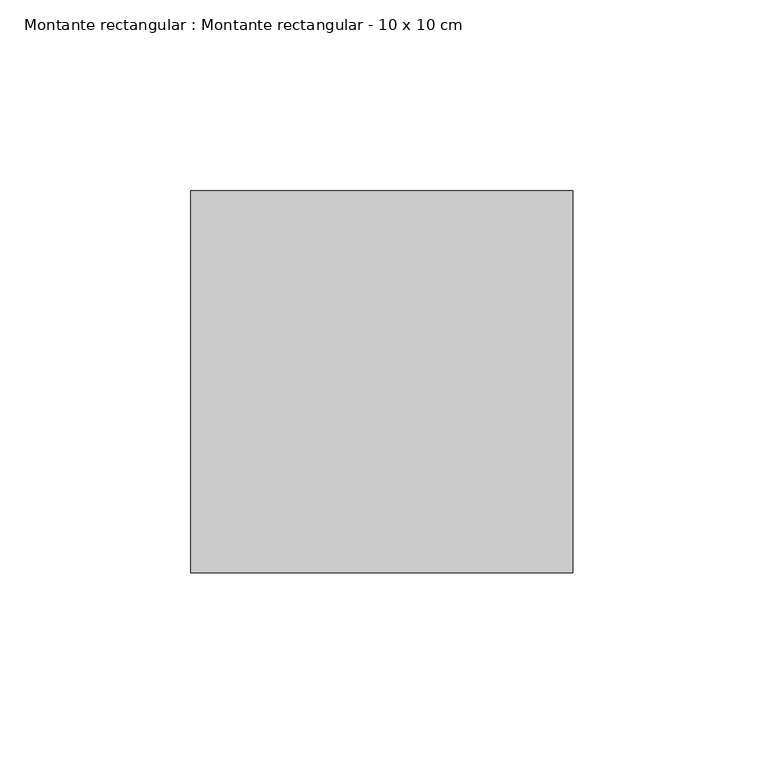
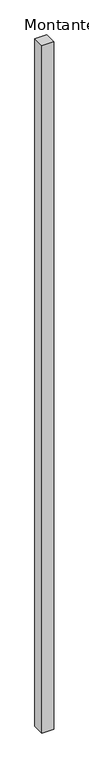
"""IFC4 building model written with IfcOpenShell, lengths in millimetres: member geometry, Montante rectangular : Montante rectangular - 10 x 10 cm."""

import ifcopenshell
import ifcopenshell.guid

model = None  # the IFC model being written
_history = None  # IfcOwnerHistory: only IFC2X3 demands one
_inside = {}  # id of a spatial element -> (the spatial element, [elements in it])
_under = {}  # id of a project, library or spatial element -> (it, [spatial elements below it])
_declared = {}  # id of a project -> (the project, [libraries it declares])
_typed = {}  # id of a type object -> (the type object, [elements of that type])
_made_of = {}  # id of a material, layer set ... -> (it, [elements and type objects made of it])


def new_model(schema):
    """Start an empty IFC model of exactly this schema.

    Asked for "IFC4X3", IfcOpenShell would pick the latest addendum, in which some entities
    have other attributes; the version numbers below select the first issue.
    IFC2X3 requires an IfcOwnerHistory on every rooted entity: one is made here for all.
    """
    global model, _history
    if schema == "IFC4X3":
        model = ifcopenshell.file(schema_version=(4, 3, 0, 0))
    else:
        model = ifcopenshell.file(schema=schema)
    _inside.clear()
    _under.clear()
    _declared.clear()
    _typed.clear()
    _made_of.clear()
    _history = None
    if model.schema == "IFC2X3":
        org = make("IfcOrganization", Name="unknown")
        user = make(
            "IfcPersonAndOrganization",
            ThePerson=make("IfcPerson", FamilyName="unknown"),
            TheOrganization=org,
        )
        app = make(
            "IfcApplication",
            ApplicationDeveloper=org,
            Version="unknown",
            ApplicationFullName="unknown",
            ApplicationIdentifier="unknown",
        )
        _history = make(
            "IfcOwnerHistory",
            OwningUser=user,
            OwningApplication=app,
            ChangeAction="ADDED",
            CreationDate=0,
        )
    return model


def make(cls, **values):
    """One entity of the class cls with the attributes given. An attribute that is None is left unset."""
    return model.create_entity(
        cls, **{name: value for name, value in values.items() if value is not None}
    )


def rooted(cls, **values):
    """An entity with a GlobalId (a new one), such as an element, a storey or a relation."""
    return make(cls, GlobalId=ifcopenshell.guid.new(), OwnerHistory=_history, **values)


def si_unit(unit_type, name, prefix=None):
    """IfcSIUnit, for example si_unit("LENGTHUNIT", "METRE", prefix="MILLI")."""
    return make("IfcSIUnit", UnitType=unit_type, Prefix=prefix, Name=name)


def assignment(units):
    """IfcUnitAssignment: the units of a project."""
    return None if units is None else make("IfcUnitAssignment", Units=units)


def point(xyz):
    """IfcCartesianPoint."""
    return None if xyz is None else make("IfcCartesianPoint", Coordinates=xyz)


def direction(xyz):
    """IfcDirection."""
    return None if xyz is None else make("IfcDirection", DirectionRatios=xyz)


def frame(location, z_axis=None, x_axis=None):
    """IfcAxis2Placement3D, a coordinate frame: its origin and axes. An axis left out is left unset."""
    return make(
        "IfcAxis2Placement3D",
        Location=point(location),
        Axis=direction(z_axis),
        RefDirection=direction(x_axis),
    )


def origin():
    """The frame at (0, 0, 0) with its axes left unset."""
    return frame((0.0, 0.0, 0.0))


def place(relative_to, where):
    """IfcLocalPlacement: puts the frame where relative to a parent placement (None: the world)."""
    return make(
        "IfcLocalPlacement", PlacementRelTo=relative_to, RelativePlacement=where
    )


def context(
    kind, dimensions, precision=None, world=None, true_north=None, identifier=None
):
    """IfcGeometricRepresentationContext, for example the 3D "Model" context."""
    return make(
        "IfcGeometricRepresentationContext",
        ContextIdentifier=identifier,
        ContextType=kind,
        CoordinateSpaceDimension=dimensions,
        Precision=precision,
        WorldCoordinateSystem=world,
        TrueNorth=true_north,
    )


def project(units=None, contexts=None):
    """IfcProject with its units and contexts."""
    return rooted(
        "IfcProject",
        Name="project",
        RepresentationContexts=contexts,
        UnitsInContext=assignment(units),
    )


def spatial(cls, under=None, at=None, **own):
    """A site, building, storey or space (cls), placed at a placement, below another one or the project."""
    s = rooted(cls, ObjectPlacement=at, **own)
    if under is not None:
        _under.setdefault(under.id(), (under, []))[1].append(s)
    return s


def polyline(points):
    """IfcPolyline through the points."""
    return make("IfcPolyline", Points=[point(p) for p in points])


def outline(outer, holes=None, kind="AREA"):
    """IfcArbitraryClosedProfileDef: a profile drawn as a closed curve; with holes, ...WithVoids."""
    if holes is None:
        return make("IfcArbitraryClosedProfileDef", ProfileType=kind, OuterCurve=outer)
    return make(
        "IfcArbitraryProfileDefWithVoids",
        ProfileType=kind,
        OuterCurve=outer,
        InnerCurves=holes,
    )


def extrude(swept, where, along, depth):
    """IfcExtrudedAreaSolid: the profile swept, set in the frame where, extruded along a direction by depth."""
    return make(
        "IfcExtrudedAreaSolid",
        SweptArea=swept,
        Position=where,
        ExtrudedDirection=direction(along),
        Depth=depth,
    )


def shape(context_of_items, identifier, shape_type, items):
    """IfcShapeRepresentation: the items that make up one representation, for example the "Body"."""
    return make(
        "IfcShapeRepresentation",
        ContextOfItems=context_of_items,
        RepresentationIdentifier=identifier,
        RepresentationType=shape_type,
        Items=items,
    )


def source(mapping_origin, context_of_items, identifier, shape_type, items):
    """IfcRepresentationMap: a shape defined once, which mapped items show again and again."""
    return make(
        "IfcRepresentationMap",
        MappingOrigin=mapping_origin,
        MappedRepresentation=shape(context_of_items, identifier, shape_type, items),
    )


def transform(
    local_origin,
    x_axis=None,
    y_axis=None,
    z_axis=None,
    scale=None,
    scale2=None,
    scale3=None,
    uniform=True,
):
    """IfcCartesianTransformationOperator3D, or its non-uniform kind. x_axis, y_axis, z_axis: its Axis1, 2, 3."""
    if uniform:
        return make(
            "IfcCartesianTransformationOperator3D",
            Axis1=direction(x_axis),
            Axis2=direction(y_axis),
            LocalOrigin=point(local_origin),
            Scale=scale,
            Axis3=direction(z_axis),
        )
    return make(
        "IfcCartesianTransformationOperator3DnonUniform",
        Axis1=direction(x_axis),
        Axis2=direction(y_axis),
        LocalOrigin=point(local_origin),
        Scale=scale,
        Axis3=direction(z_axis),
        Scale2=scale2,
        Scale3=scale3,
    )


def mapped(mapping_source, mapping_target):
    """IfcMappedItem: shows the shape of a source again, moved by a transform."""
    return make(
        "IfcMappedItem", MappingSource=mapping_source, MappingTarget=mapping_target
    )


def made_of(thing, what):
    """Note that an element or type object is made of a material, layer set ...; save() writes the relation."""
    if what is not None:
        _made_of.setdefault(what.id(), (what, []))[1].append(thing)
    return thing


def element(
    cls,
    number,
    at=None,
    inside=None,
    cuts=None,
    type_object=None,
    material=None,
    context=None,
    identifier="Body",
    shape_type=None,
    held_by="IfcProductDefinitionShape",
    body=None,
    shapes=None,
    **own,
):
    """One element of the class cls, such as IfcWall. Its Tag is "e" and its number.

    at: its placement. inside: the storey or other place that contains it. cuts: it is an
    opening in that element (IfcRelVoidsElement). A single representation is given by context,
    identifier, shape_type and body (its items); several are given by shapes. held_by: the class
    of the entity that holds the representations. save() writes the other relations.
    """
    e = rooted(cls, Tag="e%d" % number, ObjectPlacement=at, **own)
    if body is not None:
        shapes = [shape(context, identifier, shape_type, body)]
    if shapes is not None:
        e.Representation = make(held_by, Representations=shapes)
    if inside is not None:
        _inside.setdefault(inside.id(), (inside, []))[1].append(e)
    if cuts is not None:
        rooted(
            "IfcRelVoidsElement", RelatingBuildingElement=cuts, RelatedOpeningElement=e
        )
    if type_object is not None:
        _typed.setdefault(type_object.id(), (type_object, []))[1].append(e)
    return made_of(e, material)


def aggregate(whole, parts):
    """IfcRelAggregates: a whole, such as a stair, and the parts it consists of."""
    return rooted("IfcRelAggregates", RelatingObject=whole, RelatedObjects=parts)


def save(model, path):
    """Write the relations noted so far, then the file.

    IfcRelAggregates (storeys below a building ...), IfcRelContainedInSpatialStructure (elements
    in a storey), IfcRelDefinesByType, IfcRelAssociatesMaterial and IfcRelDeclares: one each for
    every whole, place, type object, material and project.
    """
    for whole, parts in _under.values():
        aggregate(whole, parts)
    for where, things in _inside.values():
        rooted(
            "IfcRelContainedInSpatialStructure",
            RelatedElements=things,
            RelatingStructure=where,
        )
    for kind, things in _typed.values():
        rooted("IfcRelDefinesByType", RelatedObjects=things, RelatingType=kind)
    for what, things in _made_of.values():
        rooted("IfcRelAssociatesMaterial", RelatedObjects=things, RelatingMaterial=what)
    for by, libraries in _declared.values():
        rooted("IfcRelDeclares", RelatingContext=by, RelatedDefinitions=libraries)
    model.write(path)


def montante_rectangular_montante_rectangular_10_x_10_cm_8e150beb(model_context):
    return source(origin(), model_context, "Body", "SweptSolid", [
        extrude(outline(polyline([(-100.0, -50.0), (-100.0, 50.0), (0.0, 50.0), (0.0, -50.0), (-100.0, -50.0)])), frame((0.0, 0.0, -6031.7395617), z_axis=(0.0, 0.0, 1.0), x_axis=(1.0, 0.0, 0.0)), (0.0, 0.0, 1.0), 6031.7395617),
    ])


if __name__ == "__main__":
    model = new_model("IFC4")
    model_context = context("Model", 3, world=origin())
    ifc_project = project(units=[si_unit("LENGTHUNIT", "METRE", prefix="MILLI")], contexts=[model_context])
    site = spatial("IfcSite", under=ifc_project)
    building = spatial("IfcBuilding", under=site)
    placement = place(None, origin())
    montante_rectangular_montante_rectangular_10_x_10_cm_shape = montante_rectangular_montante_rectangular_10_x_10_cm_8e150beb(model_context)
    element("IfcMember", 1, ObjectType="Montante rectangular : Montante rectangular - 10 x 10 cm", at=placement, inside=building, context=model_context, shape_type="MappedRepresentation", body=[
        mapped(montante_rectangular_montante_rectangular_10_x_10_cm_shape, transform((0.0, 0.0, 0.0), x_axis=(1.0, 0.0, 0.0), y_axis=(0.0, 1.0, 0.0), z_axis=(0.0, 0.0, 1.0))),
    ])
    save(model, "model.ifc")
